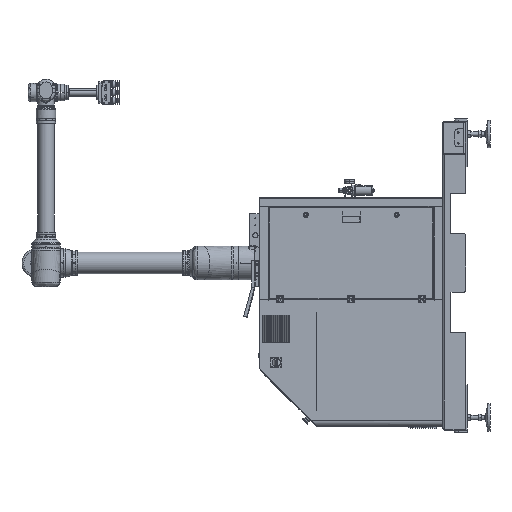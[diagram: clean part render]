
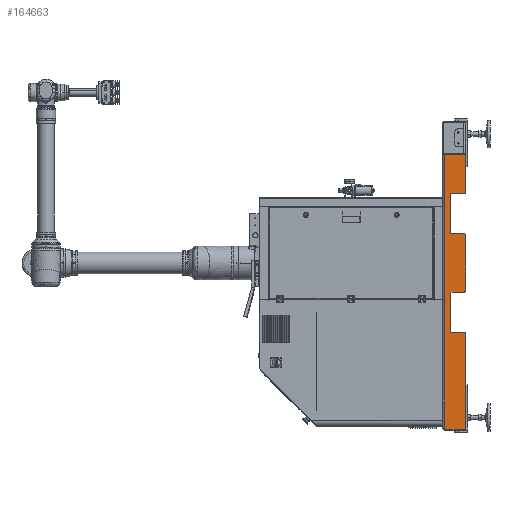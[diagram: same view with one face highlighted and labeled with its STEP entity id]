
A CAD part, left-side view. The second image highlights one B-rep face of the part: STEP entity #164663.
In plain terms, the highlighted planar face has unit normal (-1, 0, 0).
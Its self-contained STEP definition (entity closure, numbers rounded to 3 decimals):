
#55 = VERTEX_POINT ( 'NONE', #34039 ) ;
#421 = DIRECTION ( 'NONE',  ( 0., -1., 0. ) ) ;
#1004 = CARTESIAN_POINT ( 'NONE',  ( -400., -10., 760. ) ) ;
#1594 = DIRECTION ( 'NONE',  ( 0., 0., -1. ) ) ;
#1973 = ORIENTED_EDGE ( 'NONE', *, *, #94677, .F. ) ;
#4648 = VECTOR ( 'NONE', #75557, 1000. ) ;
#4848 = DIRECTION ( 'NONE',  ( 0., 0., -1. ) ) ;
#6200 = VERTEX_POINT ( 'NONE', #63202 ) ;
#7595 = VECTOR ( 'NONE', #72789, 1000. ) ;
#11390 = DIRECTION ( 'NONE',  ( 0., 1., 0. ) ) ;
#11618 = CARTESIAN_POINT ( 'NONE',  ( -400., -120., 320.5 ) ) ;
#13166 = EDGE_CURVE ( 'NONE', #55, #154321, #141340, .T. ) ;
#15006 = CARTESIAN_POINT ( 'NONE',  ( -400., -125., 760. ) ) ;
#15399 = EDGE_CURVE ( 'NONE', #58230, #109647, #72682, .T. ) ;
#16896 = CIRCLE ( 'NONE', #122960, 5. ) ;
#17509 = ORIENTED_EDGE ( 'NONE', *, *, #121655, .T. ) ;
#18159 = ORIENTED_EDGE ( 'NONE', *, *, #90824, .T. ) ;
#18776 = EDGE_CURVE ( 'NONE', #59539, #129995, #139325, .T. ) ;
#20989 = CARTESIAN_POINT ( 'NONE',  ( -400., 0., 760. ) ) ;
#21246 = EDGE_CURVE ( 'NONE', #100627, #154321, #128498, .T. ) ;
#22648 = EDGE_CURVE ( 'NONE', #154176, #58736, #113835, .T. ) ;
#23708 = LINE ( 'NONE', #112940, #63551 ) ;
#29117 = VECTOR ( 'NONE', #109227, 1000. ) ;
#29427 = VECTOR ( 'NONE', #60127, 1000. ) ;
#31195 = LINE ( 'NONE', #95789, #29117 ) ;
#32702 = CARTESIAN_POINT ( 'NONE',  ( -400., -120., -224.5 ) ) ;
#34039 = CARTESIAN_POINT ( 'NONE',  ( -400., -125., 315.5 ) ) ;
#34334 = CARTESIAN_POINT ( 'NONE',  ( -400., 1514.344, -754.929 ) ) ;
#34669 = VECTOR ( 'NONE', #163848, 1000. ) ;
#35125 = VECTOR ( 'NONE', #141624, 1000. ) ;
#35509 = LINE ( 'NONE', #61205, #29427 ) ;
#36446 = ORIENTED_EDGE ( 'NONE', *, *, #21246, .F. ) ;
#36559 = AXIS2_PLACEMENT_3D ( 'NONE', #145164, #94260, #81514 ) ;
#36573 = ORIENTED_EDGE ( 'NONE', *, *, #15399, .F. ) ;
#38424 = ORIENTED_EDGE ( 'NONE', *, *, #83886, .T. ) ;
#38469 = EDGE_LOOP ( 'NONE', ( #87789, #38424, #1973, #69968, #158449, #102137, #141310, #89301, #36446, #95557, #121109, #85949, #131335, #36573, #17509, #18159 ) ) ;
#38945 = DIRECTION ( 'NONE',  ( 1., 0., 0. ) ) ;
#39289 = EDGE_CURVE ( 'NONE', #6200, #71379, #133534, .T. ) ;
#39825 = EDGE_CURVE ( 'NONE', #55880, #45209, #35509, .T. ) ;
#45209 = VERTEX_POINT ( 'NONE', #52642 ) ;
#45865 = EDGE_CURVE ( 'NONE', #55, #58736, #31195, .T. ) ;
#51145 = PLANE ( 'NONE',  #57481 ) ;
#51454 = DIRECTION ( 'NONE',  ( -1., 0., 0. ) ) ;
#52467 = FACE_OUTER_BOUND ( 'NONE', #38469, .T. ) ;
#52642 = CARTESIAN_POINT ( 'NONE',  ( -400., -45., 545.5 ) ) ;
#53037 = CARTESIAN_POINT ( 'NONE',  ( -400., -125., 760. ) ) ;
#53944 = DIRECTION ( 'NONE',  ( -1., 0., 0. ) ) ;
#54913 = DIRECTION ( 'NONE',  ( 0., 0., -1. ) ) ;
#55869 = EDGE_CURVE ( 'NONE', #109647, #79977, #88843, .T. ) ;
#55880 = VERTEX_POINT ( 'NONE', #65355 ) ;
#56923 = LINE ( 'NONE', #90283, #92814 ) ;
#57481 = AXIS2_PLACEMENT_3D ( 'NONE', #60156, #38945, #102419 ) ;
#57874 = DIRECTION ( 'NONE',  ( 0., 0., -1. ) ) ;
#58230 = VERTEX_POINT ( 'NONE', #155141 ) ;
#58736 = VERTEX_POINT ( 'NONE', #114632 ) ;
#59539 = VERTEX_POINT ( 'NONE', #87836 ) ;
#60127 = DIRECTION ( 'NONE',  ( 0., 1., 0. ) ) ;
#60156 = CARTESIAN_POINT ( 'NONE',  ( -400., 0., 760. ) ) ;
#61205 = CARTESIAN_POINT ( 'NONE',  ( -400., 0., 545.5 ) ) ;
#63202 = CARTESIAN_POINT ( 'NONE',  ( -400., -45., -224.5 ) ) ;
#63551 = VECTOR ( 'NONE', #11390, 1000. ) ;
#65355 = CARTESIAN_POINT ( 'NONE',  ( -400., -120., 545.5 ) ) ;
#66818 = DIRECTION ( 'NONE',  ( 0., 0., -1. ) ) ;
#68926 = VECTOR ( 'NONE', #1594, 1000. ) ;
#69968 = ORIENTED_EDGE ( 'NONE', *, *, #39289, .T. ) ;
#71379 = VERTEX_POINT ( 'NONE', #78264 ) ;
#72682 = LINE ( 'NONE', #20989, #4648 ) ;
#72789 = DIRECTION ( 'NONE',  ( 0., -1., 0. ) ) ;
#74223 = EDGE_CURVE ( 'NONE', #55880, #79977, #98546, .T. ) ;
#75557 = DIRECTION ( 'NONE',  ( 0., -1., 0. ) ) ;
#78264 = CARTESIAN_POINT ( 'NONE',  ( -400., -45., 0.5 ) ) ;
#79067 = CARTESIAN_POINT ( 'NONE',  ( -400., -120., 550.5 ) ) ;
#79977 = VERTEX_POINT ( 'NONE', #141838 ) ;
#81514 = DIRECTION ( 'NONE',  ( 0., 0., -1. ) ) ;
#83886 = EDGE_CURVE ( 'NONE', #59539, #89896, #16896, .T. ) ;
#85949 = ORIENTED_EDGE ( 'NONE', *, *, #74223, .T. ) ;
#87789 = ORIENTED_EDGE ( 'NONE', *, *, #18776, .F. ) ;
#87836 = CARTESIAN_POINT ( 'NONE',  ( -400., -125., -229.5 ) ) ;
#88484 = CARTESIAN_POINT ( 'NONE',  ( -400., 0., 320.5 ) ) ;
#88521 = CARTESIAN_POINT ( 'NONE',  ( -400., -125., -754.929 ) ) ;
#88626 = CARTESIAN_POINT ( 'NONE',  ( -400., -45., 760. ) ) ;
#88843 = LINE ( 'NONE', #53037, #68926 ) ;
#89301 = ORIENTED_EDGE ( 'NONE', *, *, #13166, .T. ) ;
#89896 = VERTEX_POINT ( 'NONE', #32702 ) ;
#90283 = CARTESIAN_POINT ( 'NONE',  ( -400., 0., -224.5 ) ) ;
#90824 = EDGE_CURVE ( 'NONE', #110202, #129995, #129570, .T. ) ;
#92800 = CARTESIAN_POINT ( 'NONE',  ( -400., -10., -754.929 ) ) ;
#92814 = VECTOR ( 'NONE', #421, 1000. ) ;
#93493 = VECTOR ( 'NONE', #103055, 1000. ) ;
#94260 = DIRECTION ( 'NONE',  ( -1., 0., 0. ) ) ;
#94677 = EDGE_CURVE ( 'NONE', #6200, #89896, #56923, .T. ) ;
#95557 = ORIENTED_EDGE ( 'NONE', *, *, #111159, .F. ) ;
#95667 = CARTESIAN_POINT ( 'NONE',  ( -400., -125., 760. ) ) ;
#95789 = CARTESIAN_POINT ( 'NONE',  ( -400., -125., 760. ) ) ;
#98546 = CIRCLE ( 'NONE', #107413, 5. ) ;
#98665 = CARTESIAN_POINT ( 'NONE',  ( -400., -120., 0.5 ) ) ;
#100627 = VERTEX_POINT ( 'NONE', #126698 ) ;
#102137 = ORIENTED_EDGE ( 'NONE', *, *, #22648, .T. ) ;
#102419 = DIRECTION ( 'NONE',  ( 0., 0., -1. ) ) ;
#103055 = DIRECTION ( 'NONE',  ( 0., 0., 1. ) ) ;
#104959 = EDGE_CURVE ( 'NONE', #154176, #71379, #23708, .T. ) ;
#105814 = AXIS2_PLACEMENT_3D ( 'NONE', #115060, #51454, #140825 ) ;
#107413 = AXIS2_PLACEMENT_3D ( 'NONE', #79067, #53944, #66818 ) ;
#109227 = DIRECTION ( 'NONE',  ( 0., 0., -1. ) ) ;
#109647 = VERTEX_POINT ( 'NONE', #15006 ) ;
#110202 = VERTEX_POINT ( 'NONE', #92800 ) ;
#111159 = EDGE_CURVE ( 'NONE', #45209, #100627, #132959, .T. ) ;
#112940 = CARTESIAN_POINT ( 'NONE',  ( -400., 0., 0.5 ) ) ;
#113835 = CIRCLE ( 'NONE', #36559, 5. ) ;
#114632 = CARTESIAN_POINT ( 'NONE',  ( -400., -125., 5.5 ) ) ;
#115060 = CARTESIAN_POINT ( 'NONE',  ( -400., -120., 315.5 ) ) ;
#121109 = ORIENTED_EDGE ( 'NONE', *, *, #39825, .F. ) ;
#121655 = EDGE_CURVE ( 'NONE', #58230, #110202, #151421, .T. ) ;
#122960 = AXIS2_PLACEMENT_3D ( 'NONE', #132523, #157586, #54913 ) ;
#126698 = CARTESIAN_POINT ( 'NONE',  ( -400., -45., 320.5 ) ) ;
#127699 = CARTESIAN_POINT ( 'NONE',  ( -400., -45., 760. ) ) ;
#128498 = LINE ( 'NONE', #88484, #34669 ) ;
#129570 = LINE ( 'NONE', #34334, #7595 ) ;
#129995 = VERTEX_POINT ( 'NONE', #88521 ) ;
#131335 = ORIENTED_EDGE ( 'NONE', *, *, #55869, .F. ) ;
#132523 = CARTESIAN_POINT ( 'NONE',  ( -400., -120., -229.5 ) ) ;
#132959 = LINE ( 'NONE', #127699, #35125 ) ;
#133534 = LINE ( 'NONE', #88626, #93493 ) ;
#139325 = LINE ( 'NONE', #95667, #147350 ) ;
#140825 = DIRECTION ( 'NONE',  ( 0., 0., -1. ) ) ;
#141310 = ORIENTED_EDGE ( 'NONE', *, *, #45865, .F. ) ;
#141340 = CIRCLE ( 'NONE', #105814, 5. ) ;
#141624 = DIRECTION ( 'NONE',  ( 0., 0., -1. ) ) ;
#141838 = CARTESIAN_POINT ( 'NONE',  ( -400., -125., 550.5 ) ) ;
#143415 = VECTOR ( 'NONE', #4848, 1000. ) ;
#145164 = CARTESIAN_POINT ( 'NONE',  ( -400., -120., 5.5 ) ) ;
#147350 = VECTOR ( 'NONE', #57874, 1000. ) ;
#151421 = LINE ( 'NONE', #1004, #143415 ) ;
#154176 = VERTEX_POINT ( 'NONE', #98665 ) ;
#154321 = VERTEX_POINT ( 'NONE', #11618 ) ;
#155141 = CARTESIAN_POINT ( 'NONE',  ( -400., -10., 760. ) ) ;
#157586 = DIRECTION ( 'NONE',  ( -1., 0., 0. ) ) ;
#158449 = ORIENTED_EDGE ( 'NONE', *, *, #104959, .F. ) ;
#163848 = DIRECTION ( 'NONE',  ( 0., -1., 0. ) ) ;
#164663 = ADVANCED_FACE ( 'NONE', ( #52467 ), #51145, .F. ) ;
